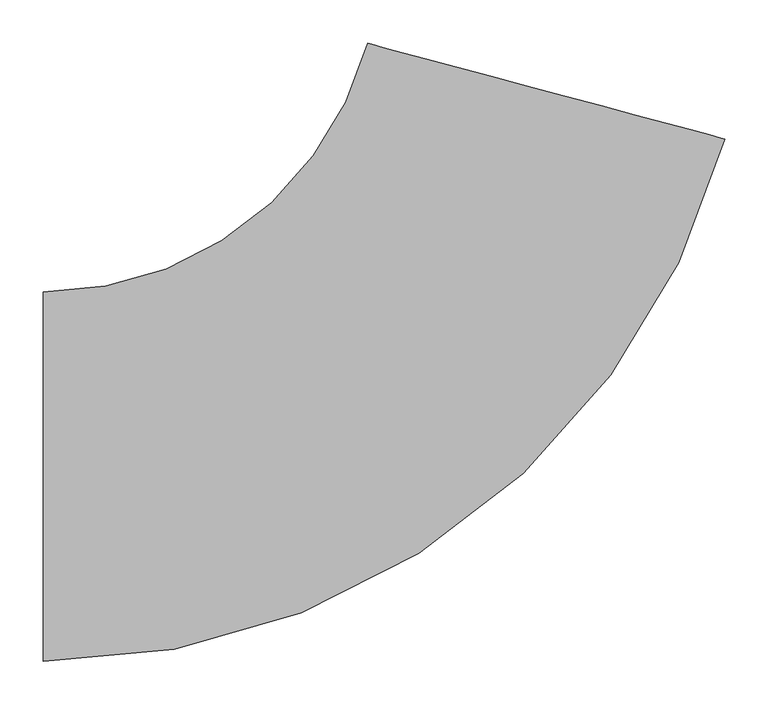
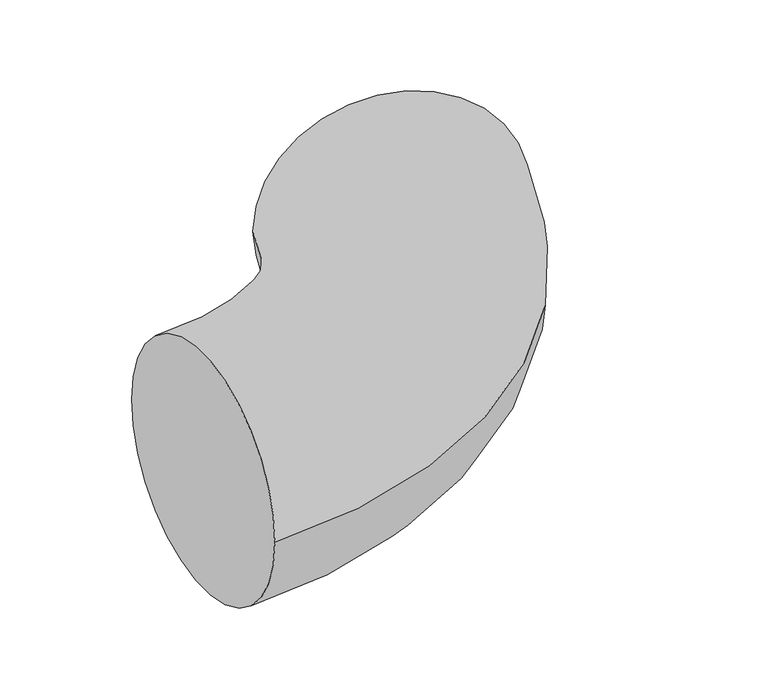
"""IFC4 building model written with IfcOpenShell, lengths in millimetres: pipe fitting geometry, ADSK_ДетальСтальнаяСварная_Отвод_ГОСТ17375-2001 : Исполнение 2."""

from ifc_helpers import new_model, si_unit, point, frame, origin, place, context, project, spatial, circle_curve, ellipse_curve, trimmed, source, transform, mapped, element, save
from ifc_brep_helpers import plane_surface, revolved_surface, advanced_brep


def pipe_fitting_2ab2dae4(model_context):
    return source(origin(), model_context, "Body", "AdvancedBrep", [
        advanced_brep(
        [(-460.3961928, -213.0, 0.0), (-460.3961928, 213.0, 0.0), (324.901504, 389.5801163, 0.0), (-86.582898, 499.8370295, 0.0)],
        [
            (0, 1, circle_curve(frame((-460.3961928, 0.0, 0.0), z_axis=(-1.0, 0.0, 0.0), x_axis=(0.0, 1.0, 0.0)), 213.0)),
            (1, 0, circle_curve(frame((-460.3961928, 0.0, 0.0), z_axis=(-1.0, 0.0, 0.0), x_axis=(0.0, 1.0, 0.0)), 213.0)),
            (2, 3, circle_curve(frame((119.159303, 444.7085729, 0.0), z_axis=(0.25881904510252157, 0.9659258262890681, 0.0), x_axis=(-0.9659258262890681, 0.25881904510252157, 0.0)), 213.0)),
            (3, 2, circle_curve(frame((119.159303, 444.7085729, 0.0), z_axis=(0.25881904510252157, 0.9659258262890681, 0.0), x_axis=(-0.9659258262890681, 0.25881904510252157, 0.0)), 213.0)),
            (3, 1, circle_curve(frame((-460.3961928, 600.0, 0.0), z_axis=(0.0, 0.0, -1.0), x_axis=(0.0, -1.0, 0.0)), 387.0)),
            (0, 2, circle_curve(frame((-460.3961928, 600.0, 0.0), z_axis=(0.0, 0.0, 1.0), x_axis=(0.0, -1.0, 0.0)), 813.0)),
        ],
        [
            plane_surface(frame((-460.3961928, 0.0, 0.0), z_axis=(-1.0, 0.0, 0.0), x_axis=(0.0, 0.0, 1.0))),
            plane_surface(frame((119.159303, 444.7085729, 0.0), z_axis=(0.2588190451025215, 0.9659258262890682, 0.0), x_axis=(0.0, 0.0, 1.0))),
            revolved_surface(trimmed(ellipse_curve(frame((-460.3961928, 0.0, 0.0), z_axis=(-1.0, 0.0, 0.0), x_axis=(0.0, 1.0, 0.0)), 213.0, 213.0), [point((-460.3961928, -213.0, 0.0))], [point((-460.3961928, 213.0, 0.0))], True, "CARTESIAN"), (-460.3961928, 600.0, 0.0), (0.0, 0.0, 1.0)),
            revolved_surface(trimmed(ellipse_curve(frame((-460.3961928, 0.0, 0.0), z_axis=(-1.0, 0.0, 0.0), x_axis=(0.0, 1.0, 0.0)), 213.0, 213.0), [point((-460.3961928, 213.0, 0.0))], [point((-460.3961928, -213.0, 0.0))], True, "CARTESIAN"), (-460.3961928, 600.0, 0.0), (0.0, 0.0, 1.0)),
        ],
        [
            (0, [[1, 2]]),
            (1, [[3, 4]]),
            (2, [[5, -1, 6, -4]]),
            (3, [[-6, -2, -5, -3]]),
        ],
    ),
    ])


if __name__ == "__main__":
    model = new_model("IFC4")
    model_context = context("Model", 3, world=origin())
    ifc_project = project(units=[si_unit("LENGTHUNIT", "METRE", prefix="MILLI")], contexts=[model_context])
    site = spatial("IfcSite", under=ifc_project)
    building = spatial("IfcBuilding", under=site)
    placement = place(None, origin())
    pipe_fitting_shape = pipe_fitting_2ab2dae4(model_context)
    element("IfcPipeFitting", 1, ObjectType="ADSK_ДетальСтальнаяСварная_Отвод_ГОСТ17375-2001 : Исполнение 2", at=placement, inside=building, context=model_context, shape_type="MappedRepresentation", body=[
        mapped(pipe_fitting_shape, transform((0.0, 0.0, 0.0), x_axis=(1.0, 0.0, 0.0), y_axis=(0.0, 1.0, 0.0), z_axis=(0.0, 0.0, 1.0))),
    ])
    save(model, "model.ifc")
